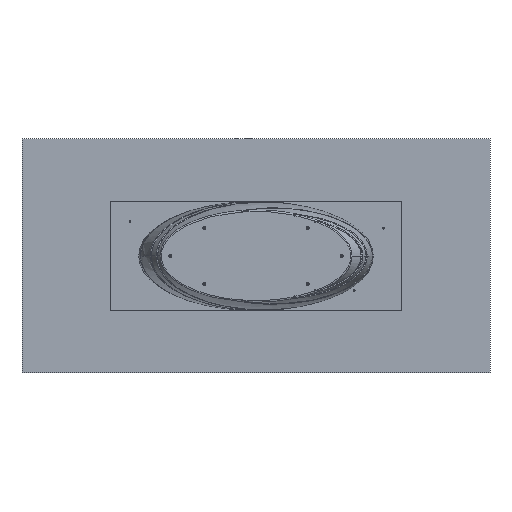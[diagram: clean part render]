
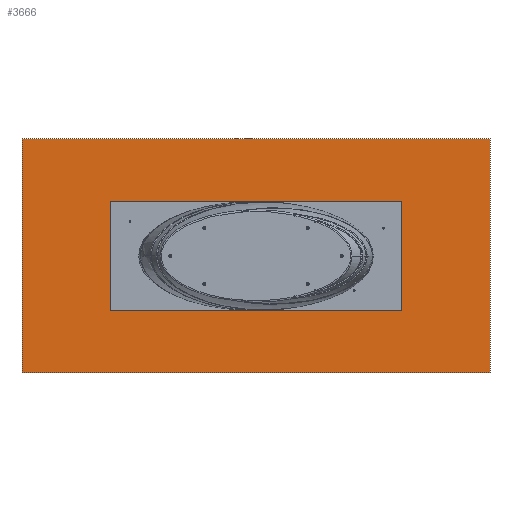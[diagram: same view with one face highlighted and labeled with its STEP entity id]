
A CAD part, front view. The second image highlights one B-rep face of the part: STEP entity #3666.
In plain terms, the highlighted planar face has unit normal (0, -1, 0).
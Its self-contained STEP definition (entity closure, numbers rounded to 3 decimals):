
#705 = DIRECTION ( 'NONE',  ( 0., -1., 0. ) ) ;
#2287 = CARTESIAN_POINT ( 'NONE',  ( 0., 50., 0. ) ) ;
#2470 = DIRECTION ( 'NONE',  ( 0., 0., -1. ) ) ;
#3666 = ADVANCED_FACE ( 'NONE', ( #36765 ), #37120, .T. ) ;
#5006 = CARTESIAN_POINT ( 'NONE',  ( 1200., 50., 600. ) ) ;
#5345 = CARTESIAN_POINT ( 'NONE',  ( -1200., 50., -600. ) ) ;
#5386 = EDGE_CURVE ( 'NONE', #17712, #16664, #12708, .T. ) ;
#5589 = ORIENTED_EDGE ( 'NONE', *, *, #5386, .F. ) ;
#7322 = CARTESIAN_POINT ( 'NONE',  ( -1200., 50., 600. ) ) ;
#8110 = CARTESIAN_POINT ( 'NONE',  ( -1200., 50., 600. ) ) ;
#8170 = LINE ( 'NONE', #5345, #22741 ) ;
#12708 = LINE ( 'NONE', #24762, #17310 ) ;
#13716 = AXIS2_PLACEMENT_3D ( 'NONE', #2287, #705, #2470 ) ;
#14349 = VERTEX_POINT ( 'NONE', #21912 ) ;
#16664 = VERTEX_POINT ( 'NONE', #5006 ) ;
#17179 = EDGE_LOOP ( 'NONE', ( #31873, #5589, #32968, #34422 ) ) ;
#17283 = CARTESIAN_POINT ( 'NONE',  ( 1200., 50., -600. ) ) ;
#17310 = VECTOR ( 'NONE', #32855, 1000. ) ;
#17712 = VERTEX_POINT ( 'NONE', #7322 ) ;
#18570 = VECTOR ( 'NONE', #28273, 1000. ) ;
#19539 = EDGE_CURVE ( 'NONE', #29020, #14349, #8170, .T. ) ;
#21912 = CARTESIAN_POINT ( 'NONE',  ( -1200., 50., -600. ) ) ;
#22741 = VECTOR ( 'NONE', #23044, 1000. ) ;
#23044 = DIRECTION ( 'NONE',  ( -1., 0., 0. ) ) ;
#24762 = CARTESIAN_POINT ( 'NONE',  ( -1200., 50., 600. ) ) ;
#25706 = EDGE_CURVE ( 'NONE', #14349, #17712, #36205, .T. ) ;
#28273 = DIRECTION ( 'NONE',  ( 0., 0., 1. ) ) ;
#28821 = VECTOR ( 'NONE', #32712, 1000. ) ;
#29020 = VERTEX_POINT ( 'NONE', #17283 ) ;
#29500 = CARTESIAN_POINT ( 'NONE',  ( 1200., 50., 600. ) ) ;
#30599 = EDGE_CURVE ( 'NONE', #16664, #29020, #31969, .T. ) ;
#31873 = ORIENTED_EDGE ( 'NONE', *, *, #30599, .F. ) ;
#31969 = LINE ( 'NONE', #29500, #28821 ) ;
#32712 = DIRECTION ( 'NONE',  ( 0., 0., -1. ) ) ;
#32855 = DIRECTION ( 'NONE',  ( 1., 0., 0. ) ) ;
#32968 = ORIENTED_EDGE ( 'NONE', *, *, #25706, .F. ) ;
#34422 = ORIENTED_EDGE ( 'NONE', *, *, #19539, .F. ) ;
#36205 = LINE ( 'NONE', #8110, #18570 ) ;
#36765 = FACE_OUTER_BOUND ( 'NONE', #17179, .T. ) ;
#37120 = PLANE ( 'NONE',  #13716 ) ;
